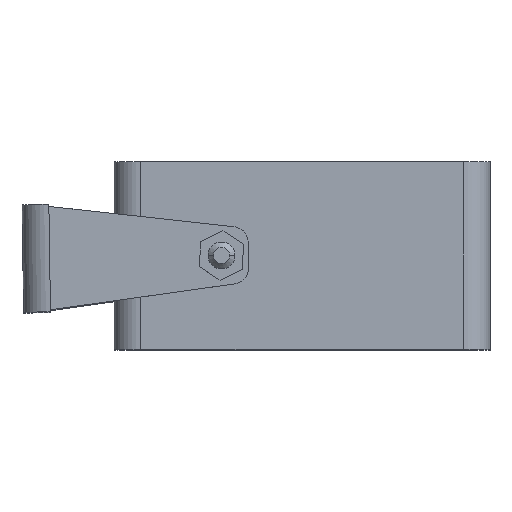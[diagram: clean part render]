
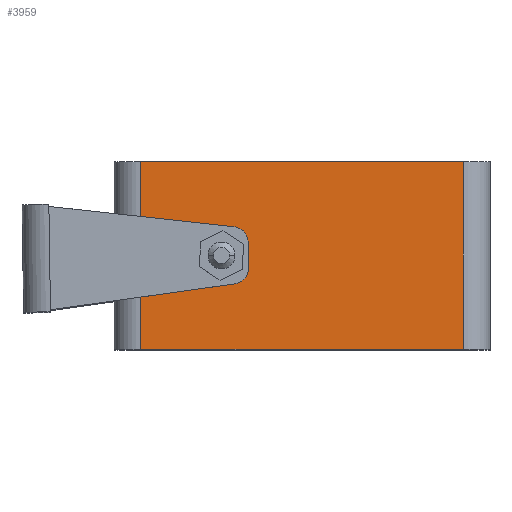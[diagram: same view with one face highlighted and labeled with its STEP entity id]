
A CAD part, top view. The second image highlights one B-rep face of the part: STEP entity #3959.
In plain terms, the highlighted planar face has unit normal (0, 0, 1).
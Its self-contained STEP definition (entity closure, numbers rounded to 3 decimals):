
#234 = VERTEX_POINT ( 'NONE', #11700 ) ;
#590 = EDGE_LOOP ( 'NONE', ( #5852, #13789 ) ) ;
#805 = EDGE_CURVE ( 'NONE', #14730, #1118, #11001, .T. ) ;
#1049 = EDGE_LOOP ( 'NONE', ( #3708, #13007, #1852, #7318 ) ) ;
#1118 = VERTEX_POINT ( 'NONE', #5785 ) ;
#1275 = VECTOR ( 'NONE', #8540, 1000. ) ;
#1852 = ORIENTED_EDGE ( 'NONE', *, *, #9672, .T. ) ;
#2926 = FACE_OUTER_BOUND ( 'NONE', #1049, .T. ) ;
#3056 = CARTESIAN_POINT ( 'NONE',  ( 22.5, 17.5, 96. ) ) ;
#3101 = DIRECTION ( 'NONE',  ( 1., 0., 0. ) ) ;
#3664 = DIRECTION ( 'NONE',  ( -1., 0., 0. ) ) ;
#3708 = ORIENTED_EDGE ( 'NONE', *, *, #16164, .T. ) ;
#3732 = PLANE ( 'NONE',  #4949 ) ;
#3959 = ADVANCED_FACE ( 'NONE', ( #7451, #2926 ), #3732, .F. ) ;
#4845 = EDGE_CURVE ( 'NONE', #234, #8428, #9425, .T. ) ;
#4949 = AXIS2_PLACEMENT_3D ( 'NONE', #11115, #12578, #3664 ) ;
#4967 = CARTESIAN_POINT ( 'NONE',  ( 65., 35., 96. ) ) ;
#5054 = CARTESIAN_POINT ( 'NONE',  ( 5., 0., 96. ) ) ;
#5781 = AXIS2_PLACEMENT_3D ( 'NONE', #13039, #18749, #3101 ) ;
#5785 = CARTESIAN_POINT ( 'NONE',  ( 17.5, 17.5, 96. ) ) ;
#5852 = ORIENTED_EDGE ( 'NONE', *, *, #805, .F. ) ;
#6001 = CARTESIAN_POINT ( 'NONE',  ( 0., 35., 96. ) ) ;
#6423 = DIRECTION ( 'NONE',  ( 0., 1., 0. ) ) ;
#7318 = ORIENTED_EDGE ( 'NONE', *, *, #4845, .T. ) ;
#7451 = FACE_BOUND ( 'NONE', #590, .T. ) ;
#8332 = VERTEX_POINT ( 'NONE', #12575 ) ;
#8428 = VERTEX_POINT ( 'NONE', #5054 ) ;
#8540 = DIRECTION ( 'NONE',  ( 1., 0., 0. ) ) ;
#9055 = EDGE_CURVE ( 'NONE', #1118, #14730, #12449, .T. ) ;
#9199 = VECTOR ( 'NONE', #17887, 1000. ) ;
#9425 = LINE ( 'NONE', #17637, #9199 ) ;
#9672 = EDGE_CURVE ( 'NONE', #12324, #234, #16279, .T. ) ;
#10373 = VECTOR ( 'NONE', #16203, 1000. ) ;
#11001 = CIRCLE ( 'NONE', #5781, 2.5 ) ;
#11115 = CARTESIAN_POINT ( 'NONE',  ( 0., 35., 96. ) ) ;
#11319 = CARTESIAN_POINT ( 'NONE',  ( 0., 0., 96. ) ) ;
#11356 = AXIS2_PLACEMENT_3D ( 'NONE', #15737, #18654, #18596 ) ;
#11385 = LINE ( 'NONE', #4967, #11838 ) ;
#11700 = CARTESIAN_POINT ( 'NONE',  ( 5., 35., 96. ) ) ;
#11838 = VECTOR ( 'NONE', #6423, 1000. ) ;
#12324 = VERTEX_POINT ( 'NONE', #17092 ) ;
#12449 = CIRCLE ( 'NONE', #11356, 2.5 ) ;
#12575 = CARTESIAN_POINT ( 'NONE',  ( 65., 0., 96. ) ) ;
#12578 = DIRECTION ( 'NONE',  ( 0., 0., -1. ) ) ;
#12807 = EDGE_CURVE ( 'NONE', #8332, #12324, #11385, .T. ) ;
#13007 = ORIENTED_EDGE ( 'NONE', *, *, #12807, .T. ) ;
#13039 = CARTESIAN_POINT ( 'NONE',  ( 20., 17.5, 96. ) ) ;
#13789 = ORIENTED_EDGE ( 'NONE', *, *, #9055, .F. ) ;
#14730 = VERTEX_POINT ( 'NONE', #3056 ) ;
#15737 = CARTESIAN_POINT ( 'NONE',  ( 20., 17.5, 96. ) ) ;
#15966 = LINE ( 'NONE', #11319, #1275 ) ;
#16164 = EDGE_CURVE ( 'NONE', #8428, #8332, #15966, .T. ) ;
#16203 = DIRECTION ( 'NONE',  ( -1., 0., 0. ) ) ;
#16279 = LINE ( 'NONE', #6001, #10373 ) ;
#17092 = CARTESIAN_POINT ( 'NONE',  ( 65., 35., 96. ) ) ;
#17637 = CARTESIAN_POINT ( 'NONE',  ( 5., 35., 96. ) ) ;
#17887 = DIRECTION ( 'NONE',  ( 0., -1., 0. ) ) ;
#18596 = DIRECTION ( 'NONE',  ( 1., 0., 0. ) ) ;
#18654 = DIRECTION ( 'NONE',  ( 0., 0., 1. ) ) ;
#18749 = DIRECTION ( 'NONE',  ( 0., 0., 1. ) ) ;
